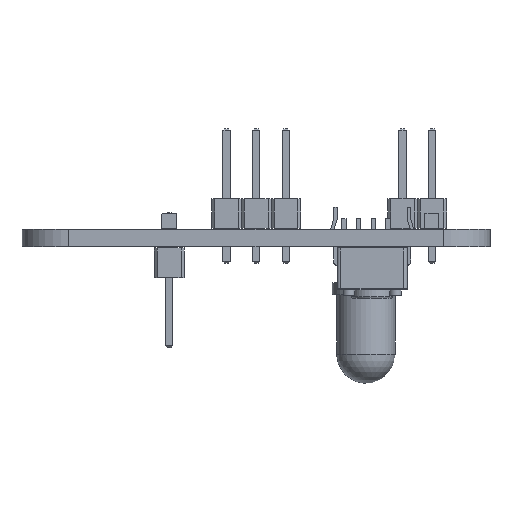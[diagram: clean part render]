
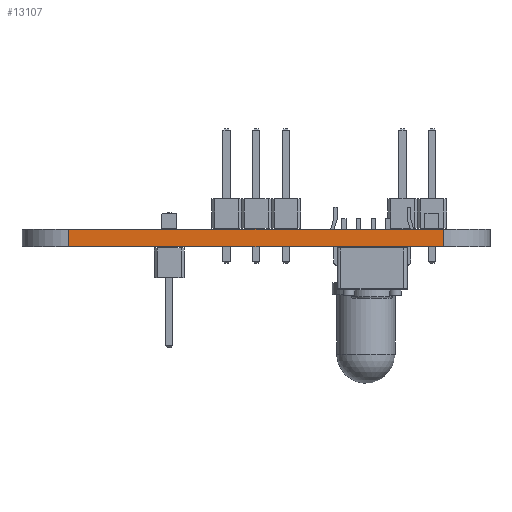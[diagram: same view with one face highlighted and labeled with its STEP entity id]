
A CAD part, front view. The second image highlights one B-rep face of the part: STEP entity #13107.
In plain terms, the highlighted planar face has unit normal (0, -1, 0).
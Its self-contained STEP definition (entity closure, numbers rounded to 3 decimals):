
#12140 = VERTEX_POINT('',#12141);
#12141 = CARTESIAN_POINT('',(76.38,-127.5,0.));
#12148 = EDGE_CURVE('',#12149,#12140,#12151,.T.);
#12149 = VERTEX_POINT('',#12150);
#12150 = CARTESIAN_POINT('',(108.5,-127.5,0.));
#12151 = LINE('',#12152,#12153);
#12152 = CARTESIAN_POINT('',(108.5,-127.5,0.));
#12153 = VECTOR('',#12154,1.);
#12154 = DIRECTION('',(-1.,0.,0.));
#12610 = VERTEX_POINT('',#12611);
#12611 = CARTESIAN_POINT('',(76.38,-127.5,1.51));
#12618 = EDGE_CURVE('',#12619,#12610,#12621,.T.);
#12619 = VERTEX_POINT('',#12620);
#12620 = CARTESIAN_POINT('',(108.5,-127.5,1.51));
#12621 = LINE('',#12622,#12623);
#12622 = CARTESIAN_POINT('',(108.5,-127.5,1.51));
#12623 = VECTOR('',#12624,1.);
#12624 = DIRECTION('',(-1.,0.,0.));
#13079 = EDGE_CURVE('',#12149,#12619,#13080,.T.);
#13080 = LINE('',#13081,#13082);
#13081 = CARTESIAN_POINT('',(108.5,-127.5,0.));
#13082 = VECTOR('',#13083,1.);
#13083 = DIRECTION('',(0.,0.,1.));
#13107 = ADVANCED_FACE('',(#13108),#13119,.T.);
#13108 = FACE_BOUND('',#13109,.T.);
#13109 = EDGE_LOOP('',(#13110,#13111,#13112,#13118));
#13110 = ORIENTED_EDGE('',*,*,#13079,.T.);
#13111 = ORIENTED_EDGE('',*,*,#12618,.T.);
#13112 = ORIENTED_EDGE('',*,*,#13113,.F.);
#13113 = EDGE_CURVE('',#12140,#12610,#13114,.T.);
#13114 = LINE('',#13115,#13116);
#13115 = CARTESIAN_POINT('',(76.38,-127.5,0.));
#13116 = VECTOR('',#13117,1.);
#13117 = DIRECTION('',(0.,0.,1.));
#13118 = ORIENTED_EDGE('',*,*,#12148,.F.);
#13119 = PLANE('',#13120);
#13120 = AXIS2_PLACEMENT_3D('',#13121,#13122,#13123);
#13121 = CARTESIAN_POINT('',(108.5,-127.5,0.));
#13122 = DIRECTION('',(0.,-1.,0.));
#13123 = DIRECTION('',(-1.,0.,0.));
